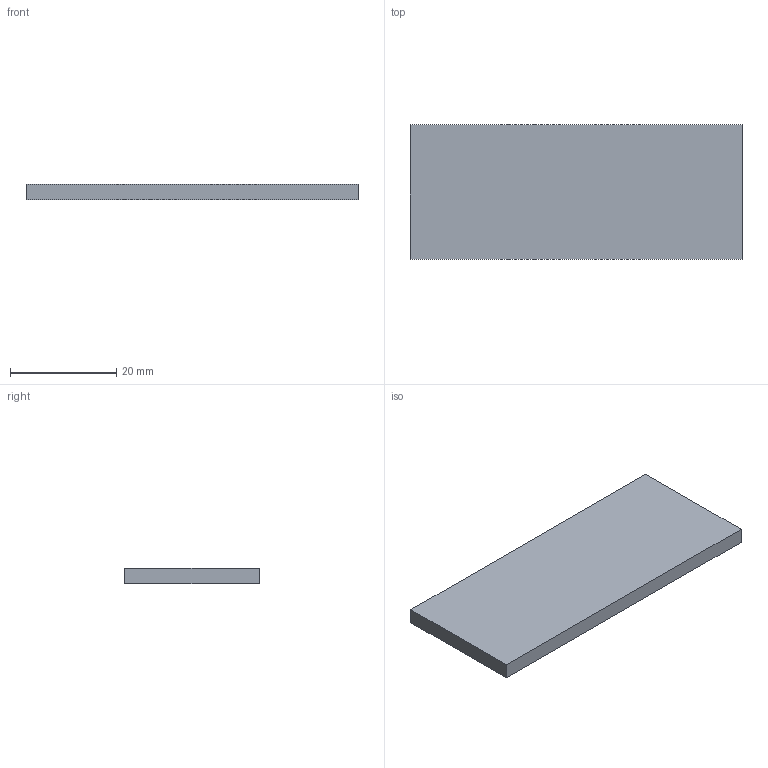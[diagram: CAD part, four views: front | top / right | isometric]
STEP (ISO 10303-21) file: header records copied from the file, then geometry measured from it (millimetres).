
FILE_DESCRIPTION(('Open CASCADE Model'),'2;1');
FILE_NAME('Open CASCADE Shape Model','2026-10-25T05:18:02',('Author'),( 'Open CASCADE'),'Open CASCADE STEP processor 7.9','Open CASCADE 7.9' ,'Unknown');
FILE_SCHEMA(('AUTOMOTIVE_DESIGN { 1 0 10303 214 1 1 1 1 }'));
Length unit declared in the file: millimetre
Products named in the file (1): Open CASCADE STEP translator 7.9 116
Bounding box: 62.5 x 25.4 x 3 mm (x, y, z)
Volume: 4762.5 mm3; surface area: 3702.4 mm2
Topology: 1 solids, 1 shells, 6 faces, 12 edges, 8 vertices
Faces by surface type: plane 6
Entity records: 322 total; most frequent: CARTESIAN_POINT 51, DIRECTION 50, LINE 36, VECTOR 36, ORIENTED_EDGE 24, PCURVE 24, DEFINITIONAL_REPRESENTATION 24, EDGE_CURVE 12
